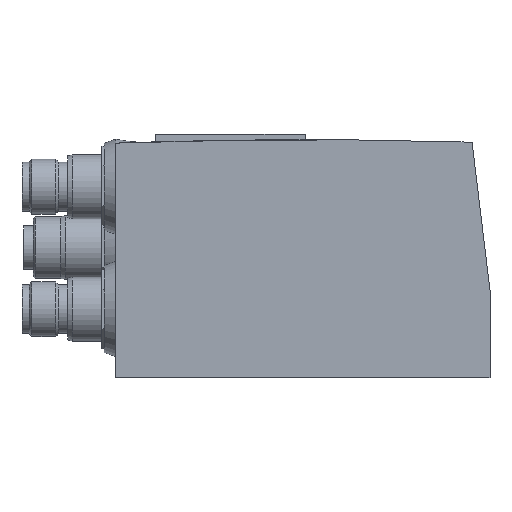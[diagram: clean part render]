
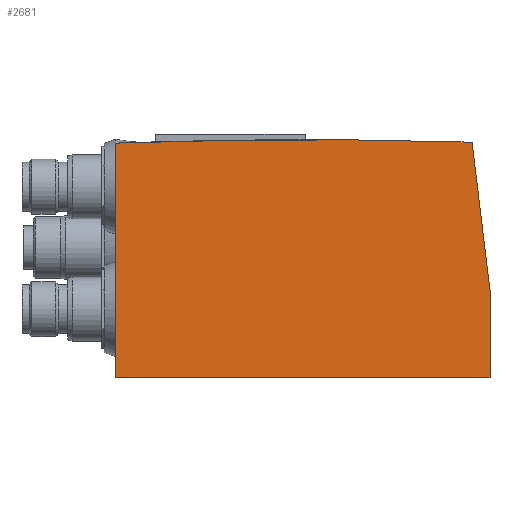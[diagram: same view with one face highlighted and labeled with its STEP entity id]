
A CAD part, top view. The second image highlights one B-rep face of the part: STEP entity #2681.
In plain terms, the highlighted planar face has unit normal (0, 0, 1).
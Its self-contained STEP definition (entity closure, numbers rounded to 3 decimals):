
#21=CARTESIAN_POINT('',(18.248,-1159.821,0.));
#22=DIRECTION('',(0.,0.,1.));
#23=DIRECTION('',(0.03,1.,0.));
#24=AXIS2_PLACEMENT_3D('',#21,#22,#23);
#26=DIRECTION('',(-0.12,0.993,0.));
#27=VECTOR('',#26,32.681);
#28=CARTESIAN_POINT('',(58.,7.2,0.));
#29=LINE('',#28,#27);
#30=DIRECTION('',(0.,1.,0.));
#31=VECTOR('',#30,19.1);
#32=CARTESIAN_POINT('',(58.,-11.9,0.));
#33=LINE('',#32,#31);
#34=DIRECTION('',(1.,0.,0.));
#35=VECTOR('',#34,82.);
#36=CARTESIAN_POINT('',(-24.,-11.9,0.));
#37=LINE('',#36,#35);
#38=DIRECTION('',(0.,-1.,0.));
#39=VECTOR('',#38,51.335);
#40=CARTESIAN_POINT('',(-24.,39.435,0.));
#41=LINE('',#40,#39);
#2085=CARTESIAN_POINT('',(54.074,39.644,0.));
#2086=CARTESIAN_POINT('',(-24.,39.435,0.));
#2087=VERTEX_POINT('',#2085);
#2088=VERTEX_POINT('',#2086);
#2089=CARTESIAN_POINT('',(-24.,-11.9,0.));
#2090=VERTEX_POINT('',#2089);
#2091=CARTESIAN_POINT('',(58.,-11.9,0.));
#2092=VERTEX_POINT('',#2091);
#2093=CARTESIAN_POINT('',(58.,7.2,0.));
#2094=VERTEX_POINT('',#2093);
#2664=CARTESIAN_POINT('',(0.,0.,0.));
#2665=DIRECTION('',(0.,0.,1.));
#2666=DIRECTION('',(1.,0.,0.));
#2667=AXIS2_PLACEMENT_3D('',#2664,#2665,#2666);
#2668=PLANE('',#2667);
#2670=ORIENTED_EDGE('',*,*,#2669,.F.);
#2672=ORIENTED_EDGE('',*,*,#2671,.F.);
#2674=ORIENTED_EDGE('',*,*,#2673,.F.);
#2676=ORIENTED_EDGE('',*,*,#2675,.F.);
#2678=ORIENTED_EDGE('',*,*,#2677,.F.);
#2679=EDGE_LOOP('',(#2670,#2672,#2674,#2676,#2678));
#2680=FACE_OUTER_BOUND('',#2679,.F.);
#2681=ADVANCED_FACE('',(#2680),#2668,.T.);
#25=CIRCLE('',#24,1200.);
#2669=EDGE_CURVE('',#2087,#2088,#25,.T.);
#2671=EDGE_CURVE('',#2094,#2087,#29,.T.);
#2673=EDGE_CURVE('',#2092,#2094,#33,.T.);
#2675=EDGE_CURVE('',#2090,#2092,#37,.T.);
#2677=EDGE_CURVE('',#2088,#2090,#41,.T.);
